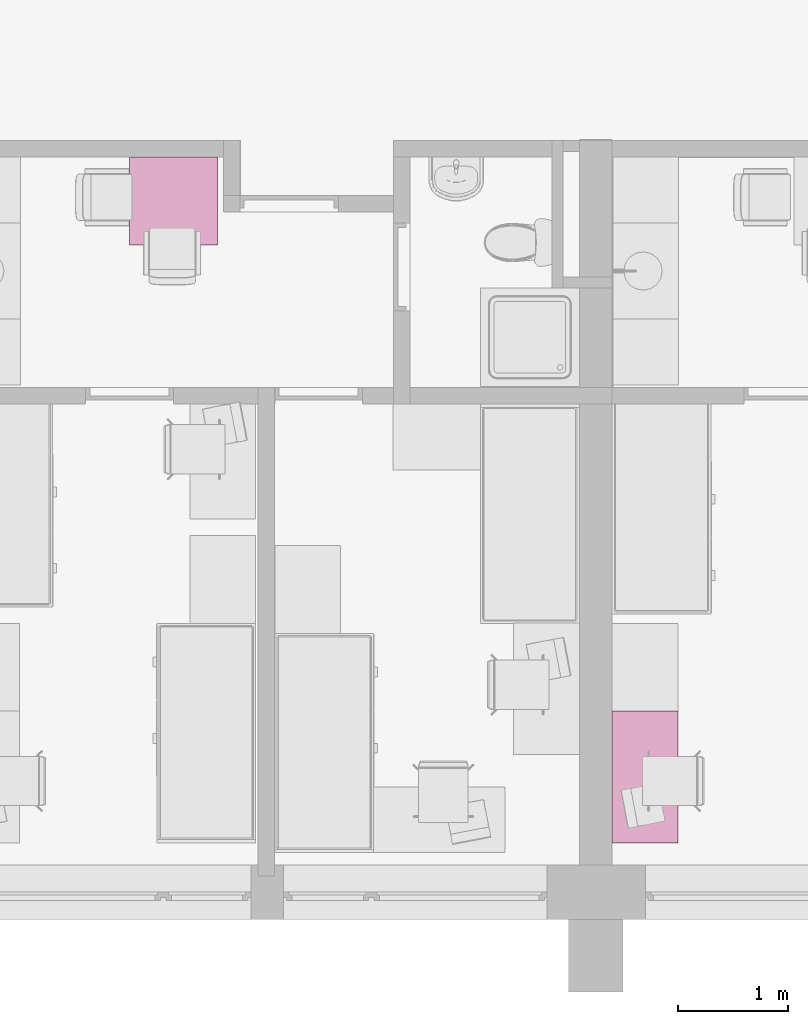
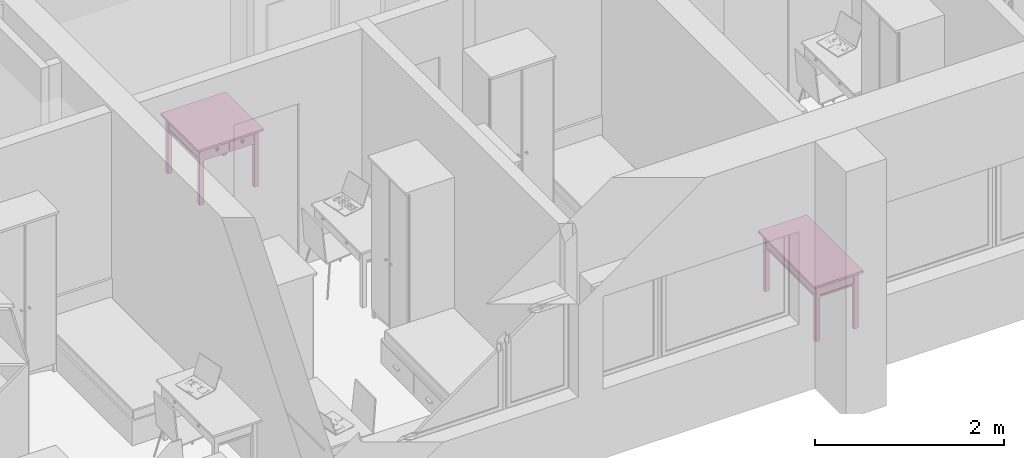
# One storey, part 81 of 165: 2 furnishings.
"""IFC2X3 building model written with IfcOpenShell, lengths in millimetres."""

from ifc_helpers import new_model, entity, si_unit, converted_unit, money_unit, direction, frame, origin_with_axes, place, context, subcontext, project, spatial, faceted_brep, source, transform, mapped, material, material_list, type_object, element, save


model = new_model("IFC2X3")

# Units and contexts
model_context = context("Model", 3, precision=1e-05, world=origin_with_axes(), true_north=direction((0.0, 1.0)))
body_context = subcontext(model_context, "Body", "Model", "MODEL_VIEW")
ifc_project = project(units=[si_unit("LENGTHUNIT", "METRE", prefix="MILLI"), si_unit("AREAUNIT", "SQUARE_METRE"), si_unit("VOLUMEUNIT", "CUBIC_METRE"), converted_unit("PLANEANGLEUNIT", "DEGREE", entity("IfcPlaneAngleMeasure", 0.0174532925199), si_unit("PLANEANGLEUNIT", "RADIAN"), dimensions=[0, 0, 0, 0, 0, 0, 0]), si_unit("SOLIDANGLEUNIT", "STERADIAN"), money_unit("USD"), converted_unit("TIMEUNIT", "Year", entity("IfcTimeMeasure", 31556926.0), si_unit("TIMEUNIT", "SECOND"), dimensions=[0, 0, 0, 0, 0, 0, 0]), si_unit("MASSUNIT", "GRAM"), si_unit("THERMODYNAMICTEMPERATUREUNIT", "DEGREE_CELSIUS"), si_unit("LUMINOUSINTENSITYUNIT", "LUMEN")], contexts=[model_context])

# Site, building, storey
site_placement = place(None, origin_with_axes())
site = spatial("IfcSite", under=ifc_project, at=site_placement, Name="Site", CompositionType="ELEMENT")
building_placement = place(site_placement, origin_with_axes())
building = spatial("IfcBuilding", under=site, at=building_placement, Name="Building", CompositionType="ELEMENT")
storey_placement = place(building_placement, frame((0.0, 0.0, 6300.0), z_axis=(0.0, 0.0, 1.0), x_axis=(1.0, 0.0, 0.0)))
storey = spatial("IfcBuildingStorey", under=building, at=storey_placement, Name="4KORRUS", CompositionType="ELEMENT", Elevation=6300.0)

# Furnishings
ifc_material = material(Name="Background")
ifc_material_list = material_list([ifc_material])
furnishing_element_type = type_object("IfcFurnishingElementType", Name="Rectangular Table 01 19")
shared_shape_1 = source(origin_with_axes(), body_context, "Body", "Brep", [
    faceted_brep([(90.0, 40.0, 0.0), (40.0, 40.0, 0.0), (40.0, 90.0, 0.0), (90.0, 90.0, 0.0), (90.0, 40.0, 725.0), (40.0, 40.0, 725.0), (40.0, 90.0, 725.0), (90.0, 90.0, 725.0)], [[[0, 1, 2, 3]], [[1, 0, 4, 5]], [[2, 1, 5, 6]], [[3, 2, 6, 7]], [[0, 3, 7, 4]], [[5, 4, 7, 6]]]),
    faceted_brep([(1160.0, 40.0, 0.0), (1110.0, 40.0, 0.0), (1110.0, 90.0, 0.0), (1160.0, 90.0, 0.0), (1160.0, 40.0, 725.0), (1110.0, 40.0, 725.0), (1110.0, 90.0, 725.0), (1160.0, 90.0, 725.0)], [[[0, 1, 2, 3]], [[1, 0, 4, 5]], [[2, 1, 5, 6]], [[3, 2, 6, 7]], [[0, 3, 7, 4]], [[5, 4, 7, 6]]]),
    faceted_brep([(90.0, 510.0, 0.0), (40.0, 510.0, 0.0), (40.0, 560.0, 0.0), (90.0, 560.0, 0.0), (90.0, 510.0, 725.0), (40.0, 510.0, 725.0), (40.0, 560.0, 725.0), (90.0, 560.0, 725.0)], [[[0, 1, 2, 3]], [[1, 0, 4, 5]], [[2, 1, 5, 6]], [[3, 2, 6, 7]], [[0, 3, 7, 4]], [[5, 4, 7, 6]]]),
    faceted_brep([(1160.0, 510.0, 0.0), (1110.0, 510.0, 0.0), (1110.0, 560.0, 0.0), (1160.0, 560.0, 0.0), (1160.0, 510.0, 725.0), (1110.0, 510.0, 725.0), (1110.0, 560.0, 725.0), (1160.0, 560.0, 725.0)], [[[0, 1, 2, 3]], [[1, 0, 4, 5]], [[2, 1, 5, 6]], [[3, 2, 6, 7]], [[0, 3, 7, 4]], [[5, 4, 7, 6]]]),
    faceted_brep([(1160.0, 40.0, 565.0), (40.0, 40.0, 565.0), (40.0, 560.0, 565.0), (1160.0, 560.0, 565.0), (1160.0, 40.0, 585.0), (40.0, 40.0, 585.0), (40.0, 560.0, 585.0), (1160.0, 560.0, 585.0)], [[[0, 1, 2, 3]], [[1, 0, 4, 5]], [[2, 1, 5, 6]], [[3, 2, 6, 7]], [[0, 3, 7, 4]], [[5, 4, 7, 6]]]),
    faceted_brep([(1110.0, 52.5, 585.0), (90.0, 52.5, 585.0), (90.0, 77.5, 585.0), (1110.0, 77.5, 585.0), (1110.0, 52.5, 745.0), (90.0, 52.5, 745.0), (90.0, 77.5, 745.0), (1110.0, 77.5, 745.0)], [[[0, 1, 2, 3]], [[1, 0, 4, 5]], [[2, 1, 5, 6]], [[3, 2, 6, 7]], [[0, 3, 7, 4]], [[5, 4, 7, 6]]]),
    faceted_brep([(77.5, 90.0, 585.0), (52.5, 90.0, 585.0), (52.5, 510.0, 585.0), (77.5, 510.0, 585.0), (77.5, 90.0, 745.0), (52.5, 90.0, 745.0), (52.5, 510.0, 745.0), (77.5, 510.0, 745.0)], [[[0, 1, 2, 3]], [[1, 0, 4, 5]], [[2, 1, 5, 6]], [[3, 2, 6, 7]], [[0, 3, 7, 4]], [[5, 4, 7, 6]]]),
    faceted_brep([(90.0, 547.5, 585.0), (1110.0, 547.5, 585.0), (1110.0, 522.5, 585.0), (90.0, 522.5, 585.0), (90.0, 547.5, 745.0), (1110.0, 547.5, 745.0), (1110.0, 522.5, 745.0), (90.0, 522.5, 745.0)], [[[0, 1, 2, 3]], [[1, 0, 4, 5]], [[2, 1, 5, 6]], [[3, 2, 6, 7]], [[0, 3, 7, 4]], [[5, 4, 7, 6]]]),
    faceted_brep([(1122.5, 510.0, 585.0), (1147.5, 510.0, 585.0), (1147.5, 90.0, 585.0), (1122.5, 90.0, 585.0), (1122.5, 510.0, 745.0), (1147.5, 510.0, 745.0), (1147.5, 90.0, 745.0), (1122.5, 90.0, 745.0)], [[[0, 1, 2, 3]], [[1, 0, 4, 5]], [[2, 1, 5, 6]], [[3, 2, 6, 7]], [[0, 3, 7, 4]], [[5, 4, 7, 6]]]),
    faceted_brep([(597.5, 40.0, 585.0), (95.0, 40.0, 585.0), (95.0, 60.0, 585.0), (597.5, 60.0, 585.0), (597.5, 40.0, 745.0), (95.0, 40.0, 745.0), (95.0, 60.0, 745.0), (597.5, 60.0, 745.0)], [[[0, 1, 2, 3]], [[1, 0, 4, 5]], [[2, 1, 5, 6]], [[3, 2, 6, 7]], [[0, 3, 7, 4]], [[5, 4, 7, 6]]]),
    faceted_brep([(1105.0, 40.0, 585.0), (602.5, 40.0, 585.0), (602.5, 60.0, 585.0), (1105.0, 60.0, 585.0), (1105.0, 40.0, 745.0), (602.5, 40.0, 745.0), (602.5, 60.0, 745.0), (1105.0, 60.0, 745.0)], [[[0, 1, 2, 3]], [[1, 0, 4, 5]], [[2, 1, 5, 6]], [[3, 2, 6, 7]], [[0, 3, 7, 4]], [[5, 4, 7, 6]]]),
    faceted_brep([(354.91, 40.0, 660.0), (351.25, 40.0, 656.34), (346.25, 40.0, 655.0), (341.25, 40.0, 656.34), (337.59, 40.0, 660.0), (336.25, 40.0, 665.0), (337.59, 40.0, 670.0), (341.25, 40.0, 673.66), (346.25, 40.0, 675.0), (351.25, 40.0, 673.66), (354.91, 40.0, 670.0), (356.25, 40.0, 665.0), (354.91, 25.0, 660.0), (351.25, 25.0, 656.34), (346.25, 25.0, 655.0), (341.25, 25.0, 656.34), (337.59, 25.0, 660.0), (336.25, 25.0, 665.0), (337.59, 25.0, 670.0), (341.25, 25.0, 673.66), (346.25, 25.0, 675.0), (351.25, 25.0, 673.66), (354.91, 25.0, 670.0), (356.25, 25.0, 665.0)], [[[0, 1, 2, 3, 4, 5, 6, 7, 8, 9, 10, 11]], [[1, 0, 12, 13]], [[2, 1, 13, 14]], [[3, 2, 14, 15]], [[4, 3, 15, 16]], [[5, 4, 16, 17]], [[6, 5, 17, 18]], [[7, 6, 18, 19]], [[8, 7, 19, 20]], [[9, 8, 20, 21]], [[10, 9, 21, 22]], [[11, 10, 22, 23]], [[0, 11, 23, 12]], [[12, 23, 22, 21, 20, 19, 18, 17, 16, 15, 14, 13]]]),
    faceted_brep([(356.25, 12.01, 665.0), (346.25, 10.0, 665.0), (354.91, 12.01, 660.0), (354.91, 12.01, 670.0), (351.25, 12.01, 656.34), (363.571, 17.5, 665.0), (361.25, 17.5, 656.34), (351.25, 12.01, 673.66), (361.25, 17.5, 673.66), (346.25, 12.01, 655.0), (354.91, 17.5, 650.0), (366.25, 25.0, 665.0), (363.571, 25.0, 655.0), (346.25, 12.01, 675.0), (354.91, 17.5, 680.0), (363.571, 25.0, 675.0), (341.25, 12.01, 656.34), (346.25, 17.5, 647.679), (356.25, 25.0, 647.679), (346.25, 25.0, 645.0), (336.25, 25.0, 647.679), (328.929, 25.0, 655.0), (326.25, 25.0, 665.0), (328.929, 25.0, 675.0), (336.25, 25.0, 682.321), (346.25, 25.0, 685.0), (356.25, 25.0, 682.321), (341.25, 12.01, 673.66), (346.25, 17.5, 682.321), (337.59, 12.01, 660.0), (337.59, 17.5, 650.0), (331.25, 17.5, 656.34), (328.929, 17.5, 665.0), (331.25, 17.5, 673.66), (337.59, 17.5, 680.0), (337.59, 12.01, 670.0), (336.25, 12.01, 665.0)], [[[0, 1, 2]], [[3, 1, 0]], [[2, 1, 4]], [[5, 0, 2, 6]], [[7, 1, 3]], [[8, 3, 0, 5]], [[4, 1, 9]], [[6, 2, 4, 10]], [[11, 5, 6, 12]], [[13, 1, 7]], [[14, 7, 3, 8]], [[15, 8, 5, 11]], [[9, 1, 16]], [[10, 4, 9, 17]], [[12, 6, 10, 18]], [[12, 18, 19, 20, 21, 22, 23, 24, 25, 26, 15, 11]], [[27, 1, 13]], [[28, 13, 7, 14]], [[26, 14, 8, 15]], [[16, 1, 29]], [[17, 9, 16, 30]], [[18, 10, 17, 19]], [[19, 17, 30, 20]], [[20, 30, 31, 21]], [[21, 31, 32, 22]], [[22, 32, 33, 23]], [[23, 33, 34, 24]], [[24, 34, 28, 25]], [[25, 28, 14, 26]], [[35, 1, 27]], [[34, 27, 13, 28]], [[29, 1, 36]], [[30, 16, 29, 31]], [[31, 29, 36, 32]], [[32, 36, 35, 33]], [[33, 35, 27, 34]], [[36, 1, 35]]]),
    faceted_brep([(862.41, 40.0, 660.0), (858.75, 40.0, 656.34), (853.75, 40.0, 655.0), (848.75, 40.0, 656.34), (845.09, 40.0, 660.0), (843.75, 40.0, 665.0), (845.09, 40.0, 670.0), (848.75, 40.0, 673.66), (853.75, 40.0, 675.0), (858.75, 40.0, 673.66), (862.41, 40.0, 670.0), (863.75, 40.0, 665.0), (862.41, 25.0, 660.0), (858.75, 25.0, 656.34), (853.75, 25.0, 655.0), (848.75, 25.0, 656.34), (845.09, 25.0, 660.0), (843.75, 25.0, 665.0), (845.09, 25.0, 670.0), (848.75, 25.0, 673.66), (853.75, 25.0, 675.0), (858.75, 25.0, 673.66), (862.41, 25.0, 670.0), (863.75, 25.0, 665.0)], [[[0, 1, 2, 3, 4, 5, 6, 7, 8, 9, 10, 11]], [[1, 0, 12, 13]], [[2, 1, 13, 14]], [[3, 2, 14, 15]], [[4, 3, 15, 16]], [[5, 4, 16, 17]], [[6, 5, 17, 18]], [[7, 6, 18, 19]], [[8, 7, 19, 20]], [[9, 8, 20, 21]], [[10, 9, 21, 22]], [[11, 10, 22, 23]], [[0, 11, 23, 12]], [[12, 23, 22, 21, 20, 19, 18, 17, 16, 15, 14, 13]]]),
    faceted_brep([(863.75, 12.01, 665.0), (853.75, 10.0, 665.0), (862.41, 12.01, 660.0), (862.41, 12.01, 670.0), (858.75, 12.01, 656.34), (871.071, 17.5, 665.0), (868.75, 17.5, 656.34), (858.75, 12.01, 673.66), (868.75, 17.5, 673.66), (853.75, 12.01, 655.0), (862.41, 17.5, 650.0), (873.75, 25.0, 665.0), (871.071, 25.0, 655.0), (853.75, 12.01, 675.0), (862.41, 17.5, 680.0), (871.071, 25.0, 675.0), (848.75, 12.01, 656.34), (853.75, 17.5, 647.679), (863.75, 25.0, 647.679), (853.75, 25.0, 645.0), (843.75, 25.0, 647.679), (836.429, 25.0, 655.0), (833.75, 25.0, 665.0), (836.429, 25.0, 675.0), (843.75, 25.0, 682.321), (853.75, 25.0, 685.0), (863.75, 25.0, 682.321), (848.75, 12.01, 673.66), (853.75, 17.5, 682.321), (845.09, 12.01, 660.0), (845.09, 17.5, 650.0), (838.75, 17.5, 656.34), (836.429, 17.5, 665.0), (838.75, 17.5, 673.66), (845.09, 17.5, 680.0), (845.09, 12.01, 670.0), (843.75, 12.01, 665.0)], [[[0, 1, 2]], [[3, 1, 0]], [[2, 1, 4]], [[5, 0, 2, 6]], [[7, 1, 3]], [[8, 3, 0, 5]], [[4, 1, 9]], [[6, 2, 4, 10]], [[11, 5, 6, 12]], [[13, 1, 7]], [[14, 7, 3, 8]], [[15, 8, 5, 11]], [[9, 1, 16]], [[10, 4, 9, 17]], [[12, 6, 10, 18]], [[12, 18, 19, 20, 21, 22, 23, 24, 25, 26, 15, 11]], [[27, 1, 13]], [[28, 13, 7, 14]], [[26, 14, 8, 15]], [[16, 1, 29]], [[17, 9, 16, 30]], [[18, 10, 17, 19]], [[19, 17, 30, 20]], [[20, 30, 31, 21]], [[21, 31, 32, 22]], [[22, 32, 33, 23]], [[23, 33, 34, 24]], [[24, 34, 28, 25]], [[25, 28, 14, 26]], [[35, 1, 27]], [[34, 27, 13, 28]], [[29, 1, 36]], [[30, 16, 29, 31]], [[31, 29, 36, 32]], [[32, 36, 35, 33]], [[33, 35, 27, 34]], [[36, 1, 35]]]),
    faceted_brep([(1200.0, 0.0, 725.0), (0.0, 0.0, 725.0), (0.0, 600.0, 725.0), (1200.0, 600.0, 725.0), (1200.0, 0.0, 750.0), (0.0, 0.0, 750.0), (0.0, 600.0, 750.0), (1200.0, 600.0, 750.0)], [[[0, 1, 2, 3]], [[1, 0, 4, 5]], [[2, 1, 5, 6]], [[3, 2, 6, 7]], [[0, 3, 7, 4]], [[5, 4, 7, 6]]]),
])
furnishing_1_placement = place(storey_placement, frame((-29390.2967033, -19439.2398994, 0.0), z_axis=(0.0, 0.0, 1.0), x_axis=(0.0, 1.0, 0.0)))
element("IfcFurnishingElement", 1, at=furnishing_1_placement, inside=storey, type_object=furnishing_element_type, material=ifc_material_list, Name="FU - 011", context=body_context, shape_type="MappedRepresentation", body=[
    mapped(shared_shape_1, transform((0.0, 0.0, 0.0))),
])
shared_shape_2 = source(origin_with_axes(), body_context, "Body", "Brep", [
    faceted_brep([(90.0, 40.0, 0.0), (40.0, 40.0, 0.0), (40.0, 90.0, 0.0), (90.0, 90.0, 0.0), (90.0, 40.0, 725.0), (40.0, 40.0, 725.0), (40.0, 90.0, 725.0), (90.0, 90.0, 725.0)], [[[0, 1, 2, 3]], [[1, 0, 4, 5]], [[2, 1, 5, 6]], [[3, 2, 6, 7]], [[0, 3, 7, 4]], [[5, 4, 7, 6]]]),
    faceted_brep([(760.0, 40.0, 0.0), (710.0, 40.0, 0.0), (710.0, 90.0, 0.0), (760.0, 90.0, 0.0), (760.0, 40.0, 725.0), (710.0, 40.0, 725.0), (710.0, 90.0, 725.0), (760.0, 90.0, 725.0)], [[[0, 1, 2, 3]], [[1, 0, 4, 5]], [[2, 1, 5, 6]], [[3, 2, 6, 7]], [[0, 3, 7, 4]], [[5, 4, 7, 6]]]),
    faceted_brep([(90.0, 710.0, 0.0), (40.0, 710.0, 0.0), (40.0, 760.0, 0.0), (90.0, 760.0, 0.0), (90.0, 710.0, 725.0), (40.0, 710.0, 725.0), (40.0, 760.0, 725.0), (90.0, 760.0, 725.0)], [[[0, 1, 2, 3]], [[1, 0, 4, 5]], [[2, 1, 5, 6]], [[3, 2, 6, 7]], [[0, 3, 7, 4]], [[5, 4, 7, 6]]]),
    faceted_brep([(760.0, 710.0, 0.0), (710.0, 710.0, 0.0), (710.0, 760.0, 0.0), (760.0, 760.0, 0.0), (760.0, 710.0, 725.0), (710.0, 710.0, 725.0), (710.0, 760.0, 725.0), (760.0, 760.0, 725.0)], [[[0, 1, 2, 3]], [[1, 0, 4, 5]], [[2, 1, 5, 6]], [[3, 2, 6, 7]], [[0, 3, 7, 4]], [[5, 4, 7, 6]]]),
    faceted_brep([(760.0, 40.0, 565.0), (40.0, 40.0, 565.0), (40.0, 760.0, 565.0), (760.0, 760.0, 565.0), (760.0, 40.0, 585.0), (40.0, 40.0, 585.0), (40.0, 760.0, 585.0), (760.0, 760.0, 585.0)], [[[0, 1, 2, 3]], [[1, 0, 4, 5]], [[2, 1, 5, 6]], [[3, 2, 6, 7]], [[0, 3, 7, 4]], [[5, 4, 7, 6]]]),
    faceted_brep([(710.0, 52.5, 585.0), (90.0, 52.5, 585.0), (90.0, 77.5, 585.0), (710.0, 77.5, 585.0), (710.0, 52.5, 745.0), (90.0, 52.5, 745.0), (90.0, 77.5, 745.0), (710.0, 77.5, 745.0)], [[[0, 1, 2, 3]], [[1, 0, 4, 5]], [[2, 1, 5, 6]], [[3, 2, 6, 7]], [[0, 3, 7, 4]], [[5, 4, 7, 6]]]),
    faceted_brep([(77.5, 90.0, 585.0), (52.5, 90.0, 585.0), (52.5, 710.0, 585.0), (77.5, 710.0, 585.0), (77.5, 90.0, 745.0), (52.5, 90.0, 745.0), (52.5, 710.0, 745.0), (77.5, 710.0, 745.0)], [[[0, 1, 2, 3]], [[1, 0, 4, 5]], [[2, 1, 5, 6]], [[3, 2, 6, 7]], [[0, 3, 7, 4]], [[5, 4, 7, 6]]]),
    faceted_brep([(90.0, 747.5, 585.0), (710.0, 747.5, 585.0), (710.0, 722.5, 585.0), (90.0, 722.5, 585.0), (90.0, 747.5, 745.0), (710.0, 747.5, 745.0), (710.0, 722.5, 745.0), (90.0, 722.5, 745.0)], [[[0, 1, 2, 3]], [[1, 0, 4, 5]], [[2, 1, 5, 6]], [[3, 2, 6, 7]], [[0, 3, 7, 4]], [[5, 4, 7, 6]]]),
    faceted_brep([(722.5, 710.0, 585.0), (747.5, 710.0, 585.0), (747.5, 90.0, 585.0), (722.5, 90.0, 585.0), (722.5, 710.0, 745.0), (747.5, 710.0, 745.0), (747.5, 90.0, 745.0), (722.5, 90.0, 745.0)], [[[0, 1, 2, 3]], [[1, 0, 4, 5]], [[2, 1, 5, 6]], [[3, 2, 6, 7]], [[0, 3, 7, 4]], [[5, 4, 7, 6]]]),
    faceted_brep([(397.5, 40.0, 585.0), (95.0, 40.0, 585.0), (95.0, 60.0, 585.0), (397.5, 60.0, 585.0), (397.5, 40.0, 745.0), (95.0, 40.0, 745.0), (95.0, 60.0, 745.0), (397.5, 60.0, 745.0)], [[[0, 1, 2, 3]], [[1, 0, 4, 5]], [[2, 1, 5, 6]], [[3, 2, 6, 7]], [[0, 3, 7, 4]], [[5, 4, 7, 6]]]),
    faceted_brep([(705.0, 40.0, 585.0), (402.5, 40.0, 585.0), (402.5, 60.0, 585.0), (705.0, 60.0, 585.0), (705.0, 40.0, 745.0), (402.5, 40.0, 745.0), (402.5, 60.0, 745.0), (705.0, 60.0, 745.0)], [[[0, 1, 2, 3]], [[1, 0, 4, 5]], [[2, 1, 5, 6]], [[3, 2, 6, 7]], [[0, 3, 7, 4]], [[5, 4, 7, 6]]]),
    faceted_brep([(254.91, 40.0, 660.0), (251.25, 40.0, 656.34), (246.25, 40.0, 655.0), (241.25, 40.0, 656.34), (237.59, 40.0, 660.0), (236.25, 40.0, 665.0), (237.59, 40.0, 670.0), (241.25, 40.0, 673.66), (246.25, 40.0, 675.0), (251.25, 40.0, 673.66), (254.91, 40.0, 670.0), (256.25, 40.0, 665.0), (254.91, 25.0, 660.0), (251.25, 25.0, 656.34), (246.25, 25.0, 655.0), (241.25, 25.0, 656.34), (237.59, 25.0, 660.0), (236.25, 25.0, 665.0), (237.59, 25.0, 670.0), (241.25, 25.0, 673.66), (246.25, 25.0, 675.0), (251.25, 25.0, 673.66), (254.91, 25.0, 670.0), (256.25, 25.0, 665.0)], [[[0, 1, 2, 3, 4, 5, 6, 7, 8, 9, 10, 11]], [[1, 0, 12, 13]], [[2, 1, 13, 14]], [[3, 2, 14, 15]], [[4, 3, 15, 16]], [[5, 4, 16, 17]], [[6, 5, 17, 18]], [[7, 6, 18, 19]], [[8, 7, 19, 20]], [[9, 8, 20, 21]], [[10, 9, 21, 22]], [[11, 10, 22, 23]], [[0, 11, 23, 12]], [[12, 23, 22, 21, 20, 19, 18, 17, 16, 15, 14, 13]]]),
    faceted_brep([(256.25, 12.01, 665.0), (246.25, 10.0, 665.0), (254.91, 12.01, 660.0), (254.91, 12.01, 670.0), (251.25, 12.01, 656.34), (263.571, 17.5, 665.0), (261.25, 17.5, 656.34), (251.25, 12.01, 673.66), (261.25, 17.5, 673.66), (246.25, 12.01, 655.0), (254.91, 17.5, 650.0), (266.25, 25.0, 665.0), (263.571, 25.0, 655.0), (246.25, 12.01, 675.0), (254.91, 17.5, 680.0), (263.571, 25.0, 675.0), (241.25, 12.01, 656.34), (246.25, 17.5, 647.679), (256.25, 25.0, 647.679), (246.25, 25.0, 645.0), (236.25, 25.0, 647.679), (228.929, 25.0, 655.0), (226.25, 25.0, 665.0), (228.929, 25.0, 675.0), (236.25, 25.0, 682.321), (246.25, 25.0, 685.0), (256.25, 25.0, 682.321), (241.25, 12.01, 673.66), (246.25, 17.5, 682.321), (237.59, 12.01, 660.0), (237.59, 17.5, 650.0), (231.25, 17.5, 656.34), (228.929, 17.5, 665.0), (231.25, 17.5, 673.66), (237.59, 17.5, 680.0), (237.59, 12.01, 670.0), (236.25, 12.01, 665.0)], [[[0, 1, 2]], [[3, 1, 0]], [[2, 1, 4]], [[5, 0, 2, 6]], [[7, 1, 3]], [[8, 3, 0, 5]], [[4, 1, 9]], [[6, 2, 4, 10]], [[11, 5, 6, 12]], [[13, 1, 7]], [[14, 7, 3, 8]], [[15, 8, 5, 11]], [[9, 1, 16]], [[10, 4, 9, 17]], [[12, 6, 10, 18]], [[12, 18, 19, 20, 21, 22, 23, 24, 25, 26, 15, 11]], [[27, 1, 13]], [[28, 13, 7, 14]], [[26, 14, 8, 15]], [[16, 1, 29]], [[17, 9, 16, 30]], [[18, 10, 17, 19]], [[19, 17, 30, 20]], [[20, 30, 31, 21]], [[21, 31, 32, 22]], [[22, 32, 33, 23]], [[23, 33, 34, 24]], [[24, 34, 28, 25]], [[25, 28, 14, 26]], [[35, 1, 27]], [[34, 27, 13, 28]], [[29, 1, 36]], [[30, 16, 29, 31]], [[31, 29, 36, 32]], [[32, 36, 35, 33]], [[33, 35, 27, 34]], [[36, 1, 35]]]),
    faceted_brep([(562.41, 40.0, 660.0), (558.75, 40.0, 656.34), (553.75, 40.0, 655.0), (548.75, 40.0, 656.34), (545.09, 40.0, 660.0), (543.75, 40.0, 665.0), (545.09, 40.0, 670.0), (548.75, 40.0, 673.66), (553.75, 40.0, 675.0), (558.75, 40.0, 673.66), (562.41, 40.0, 670.0), (563.75, 40.0, 665.0), (562.41, 25.0, 660.0), (558.75, 25.0, 656.34), (553.75, 25.0, 655.0), (548.75, 25.0, 656.34), (545.09, 25.0, 660.0), (543.75, 25.0, 665.0), (545.09, 25.0, 670.0), (548.75, 25.0, 673.66), (553.75, 25.0, 675.0), (558.75, 25.0, 673.66), (562.41, 25.0, 670.0), (563.75, 25.0, 665.0)], [[[0, 1, 2, 3, 4, 5, 6, 7, 8, 9, 10, 11]], [[1, 0, 12, 13]], [[2, 1, 13, 14]], [[3, 2, 14, 15]], [[4, 3, 15, 16]], [[5, 4, 16, 17]], [[6, 5, 17, 18]], [[7, 6, 18, 19]], [[8, 7, 19, 20]], [[9, 8, 20, 21]], [[10, 9, 21, 22]], [[11, 10, 22, 23]], [[0, 11, 23, 12]], [[12, 23, 22, 21, 20, 19, 18, 17, 16, 15, 14, 13]]]),
    faceted_brep([(563.75, 12.01, 665.0), (553.75, 10.0, 665.0), (562.41, 12.01, 660.0), (562.41, 12.01, 670.0), (558.75, 12.01, 656.34), (571.071, 17.5, 665.0), (568.75, 17.5, 656.34), (558.75, 12.01, 673.66), (568.75, 17.5, 673.66), (553.75, 12.01, 655.0), (562.41, 17.5, 650.0), (573.75, 25.0, 665.0), (571.071, 25.0, 655.0), (553.75, 12.01, 675.0), (562.41, 17.5, 680.0), (571.071, 25.0, 675.0), (548.75, 12.01, 656.34), (553.75, 17.5, 647.679), (563.75, 25.0, 647.679), (553.75, 25.0, 645.0), (543.75, 25.0, 647.679), (536.429, 25.0, 655.0), (533.75, 25.0, 665.0), (536.429, 25.0, 675.0), (543.75, 25.0, 682.321), (553.75, 25.0, 685.0), (563.75, 25.0, 682.321), (548.75, 12.01, 673.66), (553.75, 17.5, 682.321), (545.09, 12.01, 660.0), (545.09, 17.5, 650.0), (538.75, 17.5, 656.34), (536.429, 17.5, 665.0), (538.75, 17.5, 673.66), (545.09, 17.5, 680.0), (545.09, 12.01, 670.0), (543.75, 12.01, 665.0)], [[[0, 1, 2]], [[3, 1, 0]], [[2, 1, 4]], [[5, 0, 2, 6]], [[7, 1, 3]], [[8, 3, 0, 5]], [[4, 1, 9]], [[6, 2, 4, 10]], [[11, 5, 6, 12]], [[13, 1, 7]], [[14, 7, 3, 8]], [[15, 8, 5, 11]], [[9, 1, 16]], [[10, 4, 9, 17]], [[12, 6, 10, 18]], [[12, 18, 19, 20, 21, 22, 23, 24, 25, 26, 15, 11]], [[27, 1, 13]], [[28, 13, 7, 14]], [[26, 14, 8, 15]], [[16, 1, 29]], [[17, 9, 16, 30]], [[18, 10, 17, 19]], [[19, 17, 30, 20]], [[20, 30, 31, 21]], [[21, 31, 32, 22]], [[22, 32, 33, 23]], [[23, 33, 34, 24]], [[24, 34, 28, 25]], [[25, 28, 14, 26]], [[35, 1, 27]], [[34, 27, 13, 28]], [[29, 1, 36]], [[30, 16, 29, 31]], [[31, 29, 36, 32]], [[32, 36, 35, 33]], [[33, 35, 27, 34]], [[36, 1, 35]]]),
    faceted_brep([(800.0, 0.0, 725.0), (0.0, 0.0, 725.0), (0.0, 800.0, 725.0), (800.0, 800.0, 725.0), (800.0, 0.0, 750.0), (0.0, 0.0, 750.0), (0.0, 800.0, 750.0), (800.0, 800.0, 750.0)], [[[0, 1, 2, 3]], [[1, 0, 4, 5]], [[2, 1, 5, 6]], [[3, 2, 6, 7]], [[0, 3, 7, 4]], [[5, 4, 7, 6]]]),
])
furnishing_2_placement = place(storey_placement, frame((-34388.2111378, -13989.2398994, 0.0), z_axis=(0.0, 0.0, 1.0), x_axis=(1.0, 0.0, 0.0)))
element("IfcFurnishingElement", 2, at=furnishing_2_placement, inside=storey, type_object=furnishing_element_type, material=ifc_material_list, Name="FU - 011", context=body_context, shape_type="MappedRepresentation", body=[
    mapped(shared_shape_2, transform((0.0, 0.0, 0.0))),
])

save(model, "model.ifc")
